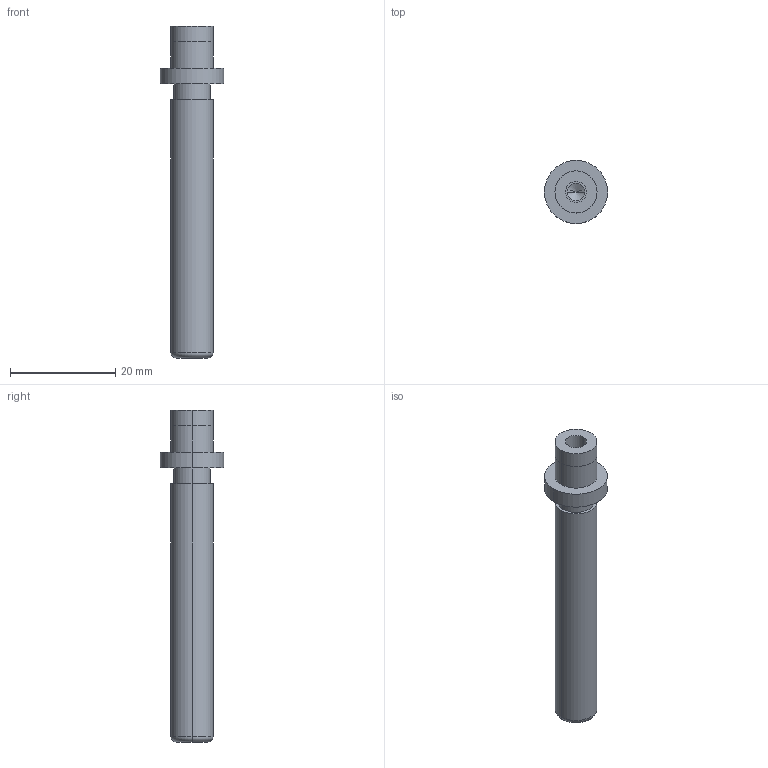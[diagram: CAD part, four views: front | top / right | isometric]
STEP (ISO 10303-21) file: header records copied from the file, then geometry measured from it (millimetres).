
FILE_DESCRIPTION(/* description */ (''),/* implementation_level */ '2;1');
FILE_NAME(/* name */ '3d_sgpw8-55_05249_r00.stp',/* time_stamp */ '2011-01-10T14:11:02+09:00',/* author */ ('MISUMI'),/* organization */ (''),/* preprocessor_version */ 'ST-DEVELOPER v11',/* originating_system */ 'UGS - NX 5.0',/* authorisation */ '');
FILE_SCHEMA (('CONFIG_CONTROL_DESIGN'));
Length unit declared in the file: millimetre
Products named in the file (1): 3d_sgpw8-55_05249_r00
Bounding box: 12 x 12 x 63 mm (x, y, z)
Volume: 3023.8 mm3; surface area: 2145.6 mm2
Topology: 1 solids, 1 shells, 31 faces, 64 edges, 38 vertices
Faces by surface type: cylinder 18, plane 7, cone 4, torus 2
Entity records: 890 total; most frequent: DIRECTION 162, CARTESIAN_POINT 130, ORIENTED_EDGE 120, AXIS2_PLACEMENT_3D 70, EDGE_CURVE 60, EDGE_LOOP 38, CIRCLE 38, VERTEX_POINT 38
